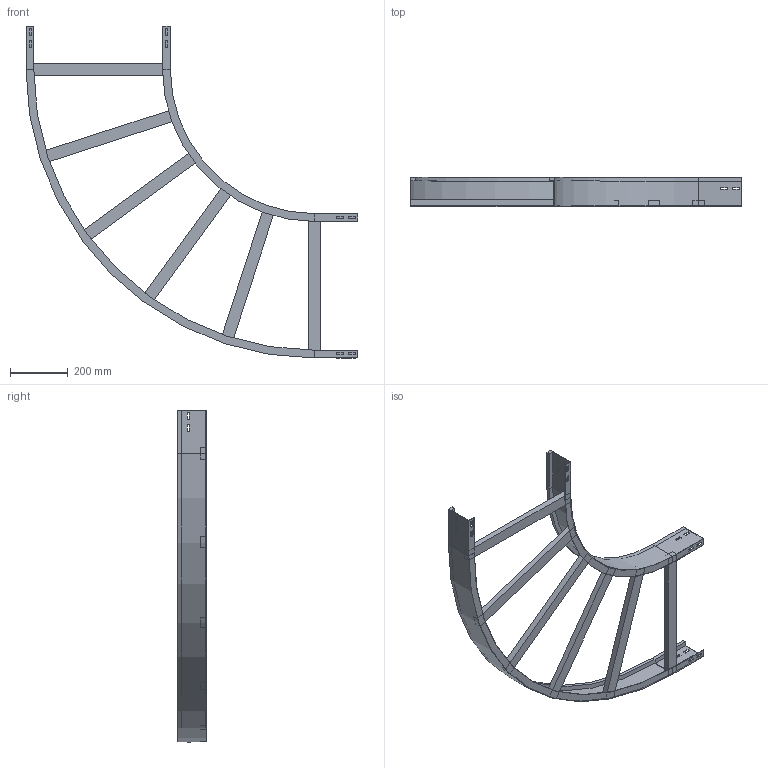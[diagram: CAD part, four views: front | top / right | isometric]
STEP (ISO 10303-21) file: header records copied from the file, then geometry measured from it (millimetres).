
FILE_DESCRIPTION (( 'STEP AP214' ), '1' );
FILE_NAME ('10B5D500.step', '2025-02-21T15:22:24', ( '' ), ( '' ), 'SwSTEP 2.0', 'SolidWorks 2023', '' );
FILE_SCHEMA (( 'AUTOMOTIVE_DESIGN' ));
Length unit declared in the file: millimetre
Products named in the file (4): A2_LONGH.ESTERNO 90°_H100_R500+500; TRAVERSINO_500; 10B5D500; A2_LONGH.INTERNO 90°_H100_R500
Assembly tree (8 placements, depth 2):
  10B5D500
    A2_LONGH.INTERNO 90°_H100_R500
    A2_LONGH.ESTERNO 90°_H100_R500+500
    TRAVERSINO_500  x6
Bounding box: 1150 x 100 x 1150 mm (x, y, z)
Volume: 3712270 mm3; surface area: 1213983.6 mm2
Topology: 8 solids, 8 shells, 152 faces, 376 edges, 240 vertices
Faces by surface type: plane 144, cylinder 8
Entity records: 3845 total; most frequent: CARTESIAN_POINT 649, ORIENTED_EDGE 632, DIRECTION 598, EDGE_CURVE 316, LINE 300, VECTOR 300, VERTEX_POINT 200, EDGE_LOOP 154
